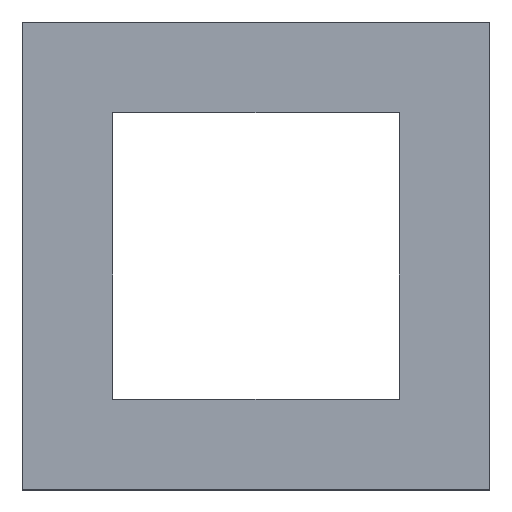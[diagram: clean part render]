
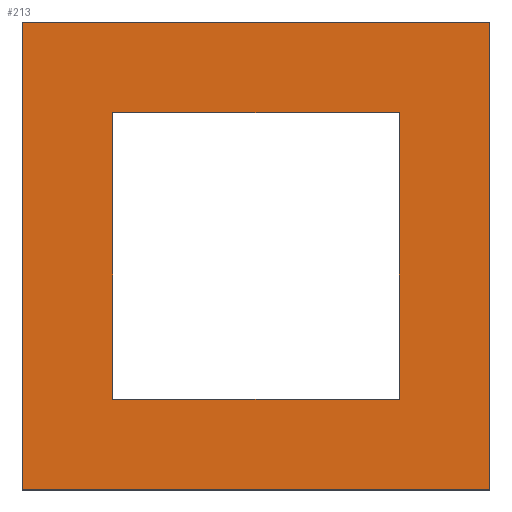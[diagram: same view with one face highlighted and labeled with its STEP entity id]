
A CAD part, top view. The second image highlights one B-rep face of the part: STEP entity #213.
In plain terms, the highlighted planar face has unit normal (0, 0, 1).
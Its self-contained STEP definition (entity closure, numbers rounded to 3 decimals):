
#24 = VERTEX_POINT('',#25);
#25 = CARTESIAN_POINT('',(-11.5,-11.5,25.));
#32 = PLANE('',#33);
#33 = AXIS2_PLACEMENT_3D('',#34,#35,#36);
#34 = CARTESIAN_POINT('',(-11.5,-11.5,22.));
#35 = DIRECTION('',(1.,0.,0.));
#36 = DIRECTION('',(0.,0.,1.));
#44 = PLANE('',#45);
#45 = AXIS2_PLACEMENT_3D('',#46,#47,#48);
#46 = CARTESIAN_POINT('',(-11.5,-11.5,22.));
#47 = DIRECTION('',(0.,1.,0.));
#48 = DIRECTION('',(0.,0.,1.));
#85 = VERTEX_POINT('',#86);
#86 = CARTESIAN_POINT('',(-11.5,11.5,25.));
#100 = PLANE('',#101);
#101 = AXIS2_PLACEMENT_3D('',#102,#103,#104);
#102 = CARTESIAN_POINT('',(-11.5,11.5,22.));
#103 = DIRECTION('',(0.,1.,0.));
#104 = DIRECTION('',(0.,0.,1.));
#112 = EDGE_CURVE('',#24,#85,#113,.T.);
#113 = SURFACE_CURVE('',#114,(#118,#125),.PCURVE_S1.);
#114 = LINE('',#115,#116);
#115 = CARTESIAN_POINT('',(-11.5,-11.5,25.));
#116 = VECTOR('',#117,1.);
#117 = DIRECTION('',(0.,1.,0.));
#118 = PCURVE('',#32,#119);
#119 = DEFINITIONAL_REPRESENTATION('',(#120),#124);
#120 = LINE('',#121,#122);
#121 = CARTESIAN_POINT('',(3.,0.));
#122 = VECTOR('',#123,1.);
#123 = DIRECTION('',(0.,-1.));
#124 = ( GEOMETRIC_REPRESENTATION_CONTEXT(2) 
PARAMETRIC_REPRESENTATION_CONTEXT() REPRESENTATION_CONTEXT('2D SPACE',''
  ) );
#125 = PCURVE('',#126,#131);
#126 = PLANE('',#127);
#127 = AXIS2_PLACEMENT_3D('',#128,#129,#130);
#128 = CARTESIAN_POINT('',(-11.5,-11.5,25.));
#129 = DIRECTION('',(0.,0.,1.));
#130 = DIRECTION('',(1.,0.,0.));
#131 = DEFINITIONAL_REPRESENTATION('',(#132),#136);
#132 = LINE('',#133,#134);
#133 = CARTESIAN_POINT('',(0.,0.));
#134 = VECTOR('',#135,1.);
#135 = DIRECTION('',(0.,1.));
#136 = ( GEOMETRIC_REPRESENTATION_CONTEXT(2) 
PARAMETRIC_REPRESENTATION_CONTEXT() REPRESENTATION_CONTEXT('2D SPACE',''
  ) );
#165 = EDGE_CURVE('',#24,#166,#168,.T.);
#166 = VERTEX_POINT('',#167);
#167 = CARTESIAN_POINT('',(11.5,-11.5,25.));
#168 = SURFACE_CURVE('',#169,(#173,#180),.PCURVE_S1.);
#169 = LINE('',#170,#171);
#170 = CARTESIAN_POINT('',(-11.5,-11.5,25.));
#171 = VECTOR('',#172,1.);
#172 = DIRECTION('',(1.,0.,0.));
#173 = PCURVE('',#44,#174);
#174 = DEFINITIONAL_REPRESENTATION('',(#175),#179);
#175 = LINE('',#176,#177);
#176 = CARTESIAN_POINT('',(3.,0.));
#177 = VECTOR('',#178,1.);
#178 = DIRECTION('',(0.,1.));
#179 = ( GEOMETRIC_REPRESENTATION_CONTEXT(2) 
PARAMETRIC_REPRESENTATION_CONTEXT() REPRESENTATION_CONTEXT('2D SPACE',''
  ) );
#180 = PCURVE('',#126,#181);
#181 = DEFINITIONAL_REPRESENTATION('',(#182),#186);
#182 = LINE('',#183,#184);
#183 = CARTESIAN_POINT('',(0.,0.));
#184 = VECTOR('',#185,1.);
#185 = DIRECTION('',(1.,0.));
#186 = ( GEOMETRIC_REPRESENTATION_CONTEXT(2) 
PARAMETRIC_REPRESENTATION_CONTEXT() REPRESENTATION_CONTEXT('2D SPACE',''
  ) );
#202 = PLANE('',#203);
#203 = AXIS2_PLACEMENT_3D('',#204,#205,#206);
#204 = CARTESIAN_POINT('',(11.5,-11.5,22.));
#205 = DIRECTION('',(1.,0.,0.));
#206 = DIRECTION('',(0.,0.,1.));
#213 = ADVANCED_FACE('',(#214,#262),#126,.T.);
#214 = FACE_BOUND('',#215,.T.);
#215 = EDGE_LOOP('',(#216,#217,#218,#241));
#216 = ORIENTED_EDGE('',*,*,#112,.F.);
#217 = ORIENTED_EDGE('',*,*,#165,.T.);
#218 = ORIENTED_EDGE('',*,*,#219,.T.);
#219 = EDGE_CURVE('',#166,#220,#222,.T.);
#220 = VERTEX_POINT('',#221);
#221 = CARTESIAN_POINT('',(11.5,11.5,25.));
#222 = SURFACE_CURVE('',#223,(#227,#234),.PCURVE_S1.);
#223 = LINE('',#224,#225);
#224 = CARTESIAN_POINT('',(11.5,-11.5,25.));
#225 = VECTOR('',#226,1.);
#226 = DIRECTION('',(0.,1.,0.));
#227 = PCURVE('',#126,#228);
#228 = DEFINITIONAL_REPRESENTATION('',(#229),#233);
#229 = LINE('',#230,#231);
#230 = CARTESIAN_POINT('',(23.,0.));
#231 = VECTOR('',#232,1.);
#232 = DIRECTION('',(0.,1.));
#233 = ( GEOMETRIC_REPRESENTATION_CONTEXT(2) 
PARAMETRIC_REPRESENTATION_CONTEXT() REPRESENTATION_CONTEXT('2D SPACE',''
  ) );
#234 = PCURVE('',#202,#235);
#235 = DEFINITIONAL_REPRESENTATION('',(#236),#240);
#236 = LINE('',#237,#238);
#237 = CARTESIAN_POINT('',(3.,0.));
#238 = VECTOR('',#239,1.);
#239 = DIRECTION('',(0.,-1.));
#240 = ( GEOMETRIC_REPRESENTATION_CONTEXT(2) 
PARAMETRIC_REPRESENTATION_CONTEXT() REPRESENTATION_CONTEXT('2D SPACE',''
  ) );
#241 = ORIENTED_EDGE('',*,*,#242,.F.);
#242 = EDGE_CURVE('',#85,#220,#243,.T.);
#243 = SURFACE_CURVE('',#244,(#248,#255),.PCURVE_S1.);
#244 = LINE('',#245,#246);
#245 = CARTESIAN_POINT('',(-11.5,11.5,25.));
#246 = VECTOR('',#247,1.);
#247 = DIRECTION('',(1.,0.,0.));
#248 = PCURVE('',#126,#249);
#249 = DEFINITIONAL_REPRESENTATION('',(#250),#254);
#250 = LINE('',#251,#252);
#251 = CARTESIAN_POINT('',(0.,23.));
#252 = VECTOR('',#253,1.);
#253 = DIRECTION('',(1.,0.));
#254 = ( GEOMETRIC_REPRESENTATION_CONTEXT(2) 
PARAMETRIC_REPRESENTATION_CONTEXT() REPRESENTATION_CONTEXT('2D SPACE',''
  ) );
#255 = PCURVE('',#100,#256);
#256 = DEFINITIONAL_REPRESENTATION('',(#257),#261);
#257 = LINE('',#258,#259);
#258 = CARTESIAN_POINT('',(3.,0.));
#259 = VECTOR('',#260,1.);
#260 = DIRECTION('',(0.,1.));
#261 = ( GEOMETRIC_REPRESENTATION_CONTEXT(2) 
PARAMETRIC_REPRESENTATION_CONTEXT() REPRESENTATION_CONTEXT('2D SPACE',''
  ) );
#262 = FACE_BOUND('',#263,.T.);
#263 = EDGE_LOOP('',(#264,#292,#318,#344));
#264 = ORIENTED_EDGE('',*,*,#265,.T.);
#265 = EDGE_CURVE('',#266,#268,#270,.T.);
#266 = VERTEX_POINT('',#267);
#267 = CARTESIAN_POINT('',(7.05,-7.05,25.));
#268 = VERTEX_POINT('',#269);
#269 = CARTESIAN_POINT('',(-7.05,-7.05,25.));
#270 = SURFACE_CURVE('',#271,(#275,#281),.PCURVE_S1.);
#271 = LINE('',#272,#273);
#272 = CARTESIAN_POINT('',(-9.275,-7.05,25.));
#273 = VECTOR('',#274,1.);
#274 = DIRECTION('',(-1.,0.,0.));
#275 = PCURVE('',#126,#276);
#276 = DEFINITIONAL_REPRESENTATION('',(#277),#280);
#277 = B_SPLINE_CURVE_WITH_KNOTS('',1,(#278,#279),.UNSPECIFIED.,.F.,.F.,
  (2,2),(-16.325,-2.225),.PIECEWISE_BEZIER_KNOTS.);
#278 = CARTESIAN_POINT('',(18.55,4.45));
#279 = CARTESIAN_POINT('',(4.45,4.45));
#280 = ( GEOMETRIC_REPRESENTATION_CONTEXT(2) 
PARAMETRIC_REPRESENTATION_CONTEXT() REPRESENTATION_CONTEXT('2D SPACE',''
  ) );
#281 = PCURVE('',#282,#287);
#282 = PLANE('',#283);
#283 = AXIS2_PLACEMENT_3D('',#284,#285,#286);
#284 = CARTESIAN_POINT('',(-7.05,-7.05,21.));
#285 = DIRECTION('',(0.,1.,0.));
#286 = DIRECTION('',(0.,0.,1.));
#287 = DEFINITIONAL_REPRESENTATION('',(#288),#291);
#288 = B_SPLINE_CURVE_WITH_KNOTS('',1,(#289,#290),.UNSPECIFIED.,.F.,.F.,
  (2,2),(-16.325,-2.225),.PIECEWISE_BEZIER_KNOTS.);
#289 = CARTESIAN_POINT('',(4.,14.1));
#290 = CARTESIAN_POINT('',(4.,0.));
#291 = ( GEOMETRIC_REPRESENTATION_CONTEXT(2) 
PARAMETRIC_REPRESENTATION_CONTEXT() REPRESENTATION_CONTEXT('2D SPACE',''
  ) );
#292 = ORIENTED_EDGE('',*,*,#293,.T.);
#293 = EDGE_CURVE('',#268,#294,#296,.T.);
#294 = VERTEX_POINT('',#295);
#295 = CARTESIAN_POINT('',(-7.05,7.05,25.));
#296 = SURFACE_CURVE('',#297,(#301,#307),.PCURVE_S1.);
#297 = LINE('',#298,#299);
#298 = CARTESIAN_POINT('',(-7.05,-9.275,25.));
#299 = VECTOR('',#300,1.);
#300 = DIRECTION('',(0.,1.,0.));
#301 = PCURVE('',#126,#302);
#302 = DEFINITIONAL_REPRESENTATION('',(#303),#306);
#303 = B_SPLINE_CURVE_WITH_KNOTS('',1,(#304,#305),.UNSPECIFIED.,.F.,.F.,
  (2,2),(2.225,16.325),.PIECEWISE_BEZIER_KNOTS.);
#304 = CARTESIAN_POINT('',(4.45,4.45));
#305 = CARTESIAN_POINT('',(4.45,18.55));
#306 = ( GEOMETRIC_REPRESENTATION_CONTEXT(2) 
PARAMETRIC_REPRESENTATION_CONTEXT() REPRESENTATION_CONTEXT('2D SPACE',''
  ) );
#307 = PCURVE('',#308,#313);
#308 = PLANE('',#309);
#309 = AXIS2_PLACEMENT_3D('',#310,#311,#312);
#310 = CARTESIAN_POINT('',(-7.05,-7.05,21.));
#311 = DIRECTION('',(1.,0.,0.));
#312 = DIRECTION('',(0.,0.,1.));
#313 = DEFINITIONAL_REPRESENTATION('',(#314),#317);
#314 = B_SPLINE_CURVE_WITH_KNOTS('',1,(#315,#316),.UNSPECIFIED.,.F.,.F.,
  (2,2),(2.225,16.325),.PIECEWISE_BEZIER_KNOTS.);
#315 = CARTESIAN_POINT('',(4.,0.));
#316 = CARTESIAN_POINT('',(4.,-14.1));
#317 = ( GEOMETRIC_REPRESENTATION_CONTEXT(2) 
PARAMETRIC_REPRESENTATION_CONTEXT() REPRESENTATION_CONTEXT('2D SPACE',''
  ) );
#318 = ORIENTED_EDGE('',*,*,#319,.F.);
#319 = EDGE_CURVE('',#320,#294,#322,.T.);
#320 = VERTEX_POINT('',#321);
#321 = CARTESIAN_POINT('',(7.05,7.05,25.));
#322 = SURFACE_CURVE('',#323,(#327,#333),.PCURVE_S1.);
#323 = LINE('',#324,#325);
#324 = CARTESIAN_POINT('',(-9.275,7.05,25.));
#325 = VECTOR('',#326,1.);
#326 = DIRECTION('',(-1.,0.,0.));
#327 = PCURVE('',#126,#328);
#328 = DEFINITIONAL_REPRESENTATION('',(#329),#332);
#329 = B_SPLINE_CURVE_WITH_KNOTS('',1,(#330,#331),.UNSPECIFIED.,.F.,.F.,
  (2,2),(-16.325,-2.225),.PIECEWISE_BEZIER_KNOTS.);
#330 = CARTESIAN_POINT('',(18.55,18.55));
#331 = CARTESIAN_POINT('',(4.45,18.55));
#332 = ( GEOMETRIC_REPRESENTATION_CONTEXT(2) 
PARAMETRIC_REPRESENTATION_CONTEXT() REPRESENTATION_CONTEXT('2D SPACE',''
  ) );
#333 = PCURVE('',#334,#339);
#334 = PLANE('',#335);
#335 = AXIS2_PLACEMENT_3D('',#336,#337,#338);
#336 = CARTESIAN_POINT('',(-7.05,7.05,21.));
#337 = DIRECTION('',(0.,1.,0.));
#338 = DIRECTION('',(0.,0.,1.));
#339 = DEFINITIONAL_REPRESENTATION('',(#340),#343);
#340 = B_SPLINE_CURVE_WITH_KNOTS('',1,(#341,#342),.UNSPECIFIED.,.F.,.F.,
  (2,2),(-16.325,-2.225),.PIECEWISE_BEZIER_KNOTS.);
#341 = CARTESIAN_POINT('',(4.,14.1));
#342 = CARTESIAN_POINT('',(4.,0.));
#343 = ( GEOMETRIC_REPRESENTATION_CONTEXT(2) 
PARAMETRIC_REPRESENTATION_CONTEXT() REPRESENTATION_CONTEXT('2D SPACE',''
  ) );
#344 = ORIENTED_EDGE('',*,*,#345,.F.);
#345 = EDGE_CURVE('',#266,#320,#346,.T.);
#346 = SURFACE_CURVE('',#347,(#351,#357),.PCURVE_S1.);
#347 = LINE('',#348,#349);
#348 = CARTESIAN_POINT('',(7.05,-9.275,25.));
#349 = VECTOR('',#350,1.);
#350 = DIRECTION('',(0.,1.,0.));
#351 = PCURVE('',#126,#352);
#352 = DEFINITIONAL_REPRESENTATION('',(#353),#356);
#353 = B_SPLINE_CURVE_WITH_KNOTS('',1,(#354,#355),.UNSPECIFIED.,.F.,.F.,
  (2,2),(2.225,16.325),.PIECEWISE_BEZIER_KNOTS.);
#354 = CARTESIAN_POINT('',(18.55,4.45));
#355 = CARTESIAN_POINT('',(18.55,18.55));
#356 = ( GEOMETRIC_REPRESENTATION_CONTEXT(2) 
PARAMETRIC_REPRESENTATION_CONTEXT() REPRESENTATION_CONTEXT('2D SPACE',''
  ) );
#357 = PCURVE('',#358,#363);
#358 = PLANE('',#359);
#359 = AXIS2_PLACEMENT_3D('',#360,#361,#362);
#360 = CARTESIAN_POINT('',(7.05,-7.05,21.));
#361 = DIRECTION('',(1.,0.,0.));
#362 = DIRECTION('',(0.,0.,1.));
#363 = DEFINITIONAL_REPRESENTATION('',(#364),#367);
#364 = B_SPLINE_CURVE_WITH_KNOTS('',1,(#365,#366),.UNSPECIFIED.,.F.,.F.,
  (2,2),(2.225,16.325),.PIECEWISE_BEZIER_KNOTS.);
#365 = CARTESIAN_POINT('',(4.,0.));
#366 = CARTESIAN_POINT('',(4.,-14.1));
#367 = ( GEOMETRIC_REPRESENTATION_CONTEXT(2) 
PARAMETRIC_REPRESENTATION_CONTEXT() REPRESENTATION_CONTEXT('2D SPACE',''
  ) );
